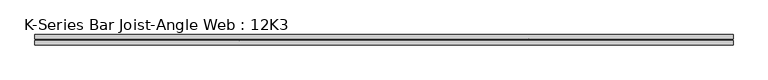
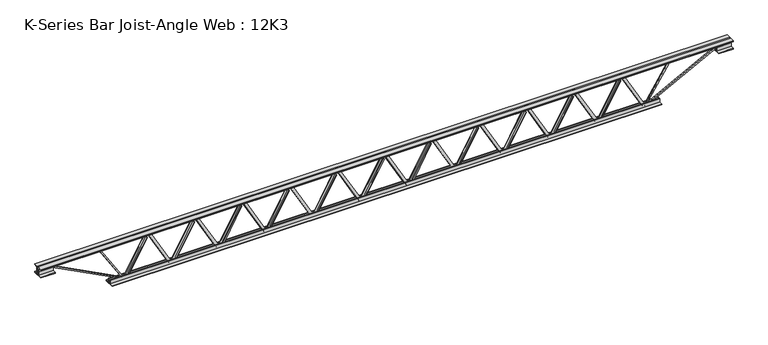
"""IFC4 building model written with IfcOpenShell, lengths in millimetres: beam geometry, K-Series Bar Joist-Angle Web : 12K3."""

from ifc_helpers import new_model, si_unit, frame, origin, place, context, project, spatial, polyline, outline, extrude, faceted_brep, source, transform, mapped, element, save


def k_series_bar_joist_angle_web_12k3_59fd12ad(model_context):
    return source(origin(), model_context, "Body", "SolidModel", [
        extrude(outline(polyline([(-4.7625, 4.7625), (-4.7625, 0.0), (-17.4625, 0.0), (-17.4625, 4.7625), (-4.7625, 4.7625)])), frame((1485.6464612, 0.0, -114.3), z_axis=(-0.48717417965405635, 0.0, 0.8733048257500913), x_axis=(0.0, -1.0, 0.0)), (0.0, 0.0, 1.0), 261.7642698),
        extrude(outline(polyline([(-149.225, 1517.0727273), (-130.175, 1517.0727273), (-130.175, 1516.3160388), (149.225, 1360.4524024), (149.225, 1342.1590909), (130.175, 1342.1590909), (130.175, 1349.2657794), (-149.225, 1505.1294158), (-149.225, 1517.0727273)])), frame((0.0, 0.0, 0.0), z_axis=(0.0, 1.0, 0.0), x_axis=(0.0, 0.0, 1.0)), (0.0, 0.0, 1.0), 4.7625),
        faceted_brep([(1179.9454545, 0.0, -130.175), (1179.9454545, 0.0, -149.225), (1179.9454545, -4.7625, -149.225), (1179.9454545, -4.7625, -130.175), (1180.702143, 0.0, -130.175), (1336.5657794, 0.0, 149.225), (1354.8590909, 0.0, 149.225), (1354.8590909, 0.0, 130.175), (1347.7524024, 0.0, 130.175), (1191.8887661, 0.0, -149.225), (1191.8887661, -4.7625, -149.225), (1211.3717206, -4.7625, -114.3), (1207.2126064, -4.7625, -111.979833), (1334.7373998, -4.7625, 116.620167), (1338.896514, -4.7625, 114.3), (1347.7524024, -4.7625, 130.175), (1354.8590909, -4.7625, 130.175), (1354.8590909, -4.7625, 149.225), (1336.5657794, -4.7625, 149.225), (1180.702143, -4.7625, -130.175), (1338.896514, -17.4625, 114.3), (1211.3717206, -17.4625, -114.3), (1207.2126064, -17.4625, -111.979833), (1334.7373998, -17.4625, 116.620167)], [[[0, 1, 2, 3]], [[1, 0, 4, 5, 6, 7, 8, 9]], [[2, 1, 9, 10]], [[3, 2, 10, 11, 12, 13, 14, 15, 16, 17, 18, 19]], [[0, 3, 19, 4]], [[9, 8, 15, 14, 20, 21, 11, 10]], [[5, 4, 19, 18]], [[7, 6, 17, 16]], [[8, 7, 16, 15]], [[6, 5, 18, 17]], [[21, 22, 12, 11]], [[20, 14, 13, 23]], [[22, 21, 20, 23]], [[12, 22, 23, 13]]]),
        extrude(outline(polyline([(-4.7625, 4.7625), (-4.7625, 0.0), (-17.4625, 0.0), (-17.4625, 4.7625), (-4.7625, 4.7625)])), frame((1148.5191885, 0.0, -114.3), z_axis=(-0.48717417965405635, 0.0, 0.8733048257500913), x_axis=(0.0, -1.0, 0.0)), (0.0, 0.0, 1.0), 261.7642698),
        extrude(outline(polyline([(-149.225, 1179.9454545), (-130.175, 1179.9454545), (-130.175, 1179.1887661), (149.225, 1023.3251297), (149.225, 1005.0318182), (130.175, 1005.0318182), (130.175, 1012.1385067), (-149.225, 1168.002143), (-149.225, 1179.9454545)])), frame((0.0, 0.0, 0.0), z_axis=(0.0, 1.0, 0.0), x_axis=(0.0, 0.0, 1.0)), (0.0, 0.0, 1.0), 4.7625),
        faceted_brep([(842.8181818, 0.0, -130.175), (842.8181818, 0.0, -149.225), (842.8181818, -4.7625, -149.225), (842.8181818, -4.7625, -130.175), (843.5748703, 0.0, -130.175), (999.4385067, 0.0, 149.225), (1017.7318182, 0.0, 149.225), (1017.7318182, 0.0, 130.175), (1010.6251297, 0.0, 130.175), (854.7614933, 0.0, -149.225), (854.7614933, -4.7625, -149.225), (874.2444479, -4.7625, -114.3), (870.0853336, -4.7625, -111.979833), (997.610127, -4.7625, 116.620167), (1001.7692413, -4.7625, 114.3), (1010.6251297, -4.7625, 130.175), (1017.7318182, -4.7625, 130.175), (1017.7318182, -4.7625, 149.225), (999.4385067, -4.7625, 149.225), (843.5748703, -4.7625, -130.175), (1001.7692413, -17.4625, 114.3), (874.2444479, -17.4625, -114.3), (870.0853336, -17.4625, -111.979833), (997.610127, -17.4625, 116.620167)], [[[0, 1, 2, 3]], [[1, 0, 4, 5, 6, 7, 8, 9]], [[2, 1, 9, 10]], [[3, 2, 10, 11, 12, 13, 14, 15, 16, 17, 18, 19]], [[0, 3, 19, 4]], [[9, 8, 15, 14, 20, 21, 11, 10]], [[5, 4, 19, 18]], [[7, 6, 17, 16]], [[8, 7, 16, 15]], [[6, 5, 18, 17]], [[21, 22, 12, 11]], [[20, 14, 13, 23]], [[22, 21, 20, 23]], [[12, 22, 23, 13]]]),
        extrude(outline(polyline([(-4.7625, 4.7625), (-4.7625, 0.0), (-17.4625, 0.0), (-17.4625, 4.7625), (-4.7625, 4.7625)])), frame((811.3919158, 0.0, -114.3), z_axis=(-0.48717417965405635, 0.0, 0.8733048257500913), x_axis=(0.0, -1.0, 0.0)), (0.0, 0.0, 1.0), 261.7642698),
        extrude(outline(polyline([(-149.225, 842.8181818), (-130.175, 842.8181818), (-130.175, 842.0614933), (149.225, 686.197857), (149.225, 667.9045455), (130.175, 667.9045455), (130.175, 675.0112339), (-149.225, 830.8748703), (-149.225, 842.8181818)])), frame((0.0, 0.0, 0.0), z_axis=(0.0, 1.0, 0.0), x_axis=(0.0, 0.0, 1.0)), (0.0, 0.0, 1.0), 4.7625),
        faceted_brep([(505.6909091, 0.0, -130.175), (505.6909091, 0.0, -149.225), (505.6909091, -4.7625, -149.225), (505.6909091, -4.7625, -130.175), (506.4475976, 0.0, -130.175), (662.3112339, 0.0, 149.225), (680.6045455, 0.0, 149.225), (680.6045455, 0.0, 130.175), (673.497857, 0.0, 130.175), (517.6342206, 0.0, -149.225), (517.6342206, -4.7625, -149.225), (537.1171752, -4.7625, -114.3), (532.9580609, -4.7625, -111.979833), (660.4828543, -4.7625, 116.620167), (664.6419685, -4.7625, 114.3), (673.497857, -4.7625, 130.175), (680.6045455, -4.7625, 130.175), (680.6045455, -4.7625, 149.225), (662.3112339, -4.7625, 149.225), (506.4475976, -4.7625, -130.175), (664.6419685, -17.4625, 114.3), (537.1171752, -17.4625, -114.3), (532.9580609, -17.4625, -111.979833), (660.4828543, -17.4625, 116.620167)], [[[0, 1, 2, 3]], [[1, 0, 4, 5, 6, 7, 8, 9]], [[2, 1, 9, 10]], [[3, 2, 10, 11, 12, 13, 14, 15, 16, 17, 18, 19]], [[0, 3, 19, 4]], [[9, 8, 15, 14, 20, 21, 11, 10]], [[5, 4, 19, 18]], [[7, 6, 17, 16]], [[8, 7, 16, 15]], [[6, 5, 18, 17]], [[21, 22, 12, 11]], [[20, 14, 13, 23]], [[22, 21, 20, 23]], [[12, 22, 23, 13]]]),
        extrude(outline(polyline([(-4.7625, 4.7625), (-4.7625, 0.0), (-17.4625, 0.0), (-17.4625, 4.7625), (-4.7625, 4.7625)])), frame((474.264643, 0.0, -114.3), z_axis=(-0.48717417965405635, 0.0, 0.8733048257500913), x_axis=(0.0, -1.0, 0.0)), (0.0, 0.0, 1.0), 261.7642698),
        extrude(outline(polyline([(-149.225, 505.6909091), (-130.175, 505.6909091), (-130.175, 504.9342206), (149.225, 349.0705842), (149.225, 330.7772727), (130.175, 330.7772727), (130.175, 337.8839612), (-149.225, 493.7475976), (-149.225, 505.6909091)])), frame((0.0, 0.0, 0.0), z_axis=(0.0, 1.0, 0.0), x_axis=(0.0, 0.0, 1.0)), (0.0, 0.0, 1.0), 4.7625),
        faceted_brep([(168.5636364, 0.0, -130.175), (168.5636364, 0.0, -149.225), (168.5636364, -4.7625, -149.225), (168.5636364, -4.7625, -130.175), (169.3203248, 0.0, -130.175), (325.1839612, 0.0, 149.225), (343.4772727, 0.0, 149.225), (343.4772727, 0.0, 130.175), (336.3705842, 0.0, 130.175), (180.5069479, 0.0, -149.225), (180.5069479, -4.7625, -149.225), (199.9899024, -4.7625, -114.3), (195.8307882, -4.7625, -111.979833), (323.3555816, -4.7625, 116.620167), (327.5146958, -4.7625, 114.3), (336.3705842, -4.7625, 130.175), (343.4772727, -4.7625, 130.175), (343.4772727, -4.7625, 149.225), (325.1839612, -4.7625, 149.225), (169.3203248, -4.7625, -130.175), (327.5146958, -17.4625, 114.3), (199.9899024, -17.4625, -114.3), (195.8307882, -17.4625, -111.979833), (323.3555816, -17.4625, 116.620167)], [[[0, 1, 2, 3]], [[1, 0, 4, 5, 6, 7, 8, 9]], [[2, 1, 9, 10]], [[3, 2, 10, 11, 12, 13, 14, 15, 16, 17, 18, 19]], [[0, 3, 19, 4]], [[9, 8, 15, 14, 20, 21, 11, 10]], [[5, 4, 19, 18]], [[7, 6, 17, 16]], [[8, 7, 16, 15]], [[6, 5, 18, 17]], [[21, 22, 12, 11]], [[20, 14, 13, 23]], [[22, 21, 20, 23]], [[12, 22, 23, 13]]]),
        extrude(outline(polyline([(-4.7625, 4.7625), (-4.7625, 0.0), (-17.4625, 0.0), (-17.4625, 4.7625), (-4.7625, 4.7625)])), frame((137.1373703, 0.0, -114.3), z_axis=(-0.48717417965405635, 0.0, 0.8733048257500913), x_axis=(0.0, -1.0, 0.0)), (0.0, 0.0, 1.0), 261.7642698),
        extrude(outline(polyline([(-149.225, 168.5636364), (-130.175, 168.5636364), (-130.175, 167.8069479), (149.225, 11.9433115), (149.225, -6.35), (130.175, -6.35), (130.175, 0.7566885), (-149.225, 156.6203248), (-149.225, 168.5636364)])), frame((0.0, 0.0, 0.0), z_axis=(0.0, 1.0, 0.0), x_axis=(0.0, 0.0, 1.0)), (0.0, 0.0, 1.0), 4.7625),
        faceted_brep([(-168.5636364, 0.0, -130.175), (-168.5636364, 0.0, -149.225), (-168.5636364, -4.7625, -149.225), (-168.5636364, -4.7625, -130.175), (-167.8069479, 0.0, -130.175), (-11.9433115, 0.0, 149.225), (6.35, 0.0, 149.225), (6.35, 0.0, 130.175), (-0.7566885, 0.0, 130.175), (-156.6203248, 0.0, -149.225), (-156.6203248, -4.7625, -149.225), (-137.1373703, -4.7625, -114.3), (-141.2964845, -4.7625, -111.979833), (-13.7716911, -4.7625, 116.620167), (-9.6125769, -4.7625, 114.3), (-0.7566885, -4.7625, 130.175), (6.35, -4.7625, 130.175), (6.35, -4.7625, 149.225), (-11.9433115, -4.7625, 149.225), (-167.8069479, -4.7625, -130.175), (-9.6125769, -17.4625, 114.3), (-137.1373703, -17.4625, -114.3), (-141.2964845, -17.4625, -111.979833), (-13.7716911, -17.4625, 116.620167)], [[[0, 1, 2, 3]], [[1, 0, 4, 5, 6, 7, 8, 9]], [[2, 1, 9, 10]], [[3, 2, 10, 11, 12, 13, 14, 15, 16, 17, 18, 19]], [[0, 3, 19, 4]], [[9, 8, 15, 14, 20, 21, 11, 10]], [[5, 4, 19, 18]], [[7, 6, 17, 16]], [[8, 7, 16, 15]], [[6, 5, 18, 17]], [[21, 22, 12, 11]], [[20, 14, 13, 23]], [[22, 21, 20, 23]], [[12, 22, 23, 13]]]),
        extrude(outline(polyline([(-4.7625, 4.7625), (-4.7625, 0.0), (-17.4625, 0.0), (-17.4625, 4.7625), (-4.7625, 4.7625)])), frame((-199.9899024, 0.0, -114.3), z_axis=(-0.48717417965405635, 0.0, 0.8733048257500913), x_axis=(0.0, -1.0, 0.0)), (0.0, 0.0, 1.0), 261.7642698),
        extrude(outline(polyline([(-149.225, -168.5636364), (-130.175, -168.5636364), (-130.175, -169.3203248), (149.225, -325.1839612), (149.225, -343.4772727), (130.175, -343.4772727), (130.175, -336.3705842), (-149.225, -180.5069479), (-149.225, -168.5636364)])), frame((0.0, 0.0, 0.0), z_axis=(0.0, 1.0, 0.0), x_axis=(0.0, 0.0, 1.0)), (0.0, 0.0, 1.0), 4.7625),
        faceted_brep([(-505.6909091, 0.0, -130.175), (-505.6909091, 0.0, -149.225), (-505.6909091, -4.7625, -149.225), (-505.6909091, -4.7625, -130.175), (-504.9342206, 0.0, -130.175), (-349.0705842, 0.0, 149.225), (-330.7772727, 0.0, 149.225), (-330.7772727, 0.0, 130.175), (-337.8839612, 0.0, 130.175), (-493.7475976, 0.0, -149.225), (-493.7475976, -4.7625, -149.225), (-474.264643, -4.7625, -114.3), (-478.4237573, -4.7625, -111.979833), (-350.8989639, -4.7625, 116.620167), (-346.7398496, -4.7625, 114.3), (-337.8839612, -4.7625, 130.175), (-330.7772727, -4.7625, 130.175), (-330.7772727, -4.7625, 149.225), (-349.0705842, -4.7625, 149.225), (-504.9342206, -4.7625, -130.175), (-346.7398496, -17.4625, 114.3), (-474.264643, -17.4625, -114.3), (-478.4237573, -17.4625, -111.979833), (-350.8989639, -17.4625, 116.620167)], [[[0, 1, 2, 3]], [[1, 0, 4, 5, 6, 7, 8, 9]], [[2, 1, 9, 10]], [[3, 2, 10, 11, 12, 13, 14, 15, 16, 17, 18, 19]], [[0, 3, 19, 4]], [[9, 8, 15, 14, 20, 21, 11, 10]], [[5, 4, 19, 18]], [[7, 6, 17, 16]], [[8, 7, 16, 15]], [[6, 5, 18, 17]], [[21, 22, 12, 11]], [[20, 14, 13, 23]], [[22, 21, 20, 23]], [[12, 22, 23, 13]]]),
        extrude(outline(polyline([(-4.7625, 4.7625), (-4.7625, 0.0), (-17.4625, 0.0), (-17.4625, 4.7625), (-4.7625, 4.7625)])), frame((-537.1171752, 0.0, -114.3), z_axis=(-0.48717417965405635, 0.0, 0.8733048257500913), x_axis=(0.0, -1.0, 0.0)), (0.0, 0.0, 1.0), 261.7642698),
        extrude(outline(polyline([(-149.225, -505.6909091), (-130.175, -505.6909091), (-130.175, -506.4475976), (149.225, -662.3112339), (149.225, -680.6045455), (130.175, -680.6045455), (130.175, -673.497857), (-149.225, -517.6342206), (-149.225, -505.6909091)])), frame((0.0, 0.0, 0.0), z_axis=(0.0, 1.0, 0.0), x_axis=(0.0, 0.0, 1.0)), (0.0, 0.0, 1.0), 4.7625),
        faceted_brep([(-842.8181818, 0.0, -130.175), (-842.8181818, 0.0, -149.225), (-842.8181818, -4.7625, -149.225), (-842.8181818, -4.7625, -130.175), (-842.0614933, 0.0, -130.175), (-686.197857, 0.0, 149.225), (-667.9045455, 0.0, 149.225), (-667.9045455, 0.0, 130.175), (-675.0112339, 0.0, 130.175), (-830.8748703, 0.0, -149.225), (-830.8748703, -4.7625, -149.225), (-811.3919158, -4.7625, -114.3), (-815.55103, -4.7625, -111.979833), (-688.0262366, -4.7625, 116.620167), (-683.8671224, -4.7625, 114.3), (-675.0112339, -4.7625, 130.175), (-667.9045455, -4.7625, 130.175), (-667.9045455, -4.7625, 149.225), (-686.197857, -4.7625, 149.225), (-842.0614933, -4.7625, -130.175), (-683.8671224, -17.4625, 114.3), (-811.3919158, -17.4625, -114.3), (-815.55103, -17.4625, -111.979833), (-688.0262366, -17.4625, 116.620167)], [[[0, 1, 2, 3]], [[1, 0, 4, 5, 6, 7, 8, 9]], [[2, 1, 9, 10]], [[3, 2, 10, 11, 12, 13, 14, 15, 16, 17, 18, 19]], [[0, 3, 19, 4]], [[9, 8, 15, 14, 20, 21, 11, 10]], [[5, 4, 19, 18]], [[7, 6, 17, 16]], [[8, 7, 16, 15]], [[6, 5, 18, 17]], [[21, 22, 12, 11]], [[20, 14, 13, 23]], [[22, 21, 20, 23]], [[12, 22, 23, 13]]]),
        extrude(outline(polyline([(-4.7625, 4.7625), (-4.7625, 0.0), (-17.4625, 0.0), (-17.4625, 4.7625), (-4.7625, 4.7625)])), frame((-874.2444479, 0.0, -114.3), z_axis=(-0.48717417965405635, 0.0, 0.8733048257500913), x_axis=(0.0, -1.0, 0.0)), (0.0, 0.0, 1.0), 261.7642698),
        extrude(outline(polyline([(-149.225, -842.8181818), (-130.175, -842.8181818), (-130.175, -843.5748703), (149.225, -999.4385067), (149.225, -1017.7318182), (130.175, -1017.7318182), (130.175, -1010.6251297), (-149.225, -854.7614933), (-149.225, -842.8181818)])), frame((0.0, 0.0, 0.0), z_axis=(0.0, 1.0, 0.0), x_axis=(0.0, 0.0, 1.0)), (0.0, 0.0, 1.0), 4.7625),
        faceted_brep([(-1179.9454545, 0.0, -130.175), (-1179.9454545, 0.0, -149.225), (-1179.9454545, -4.7625, -149.225), (-1179.9454545, -4.7625, -130.175), (-1179.1887661, 0.0, -130.175), (-1023.3251297, 0.0, 149.225), (-1005.0318182, 0.0, 149.225), (-1005.0318182, 0.0, 130.175), (-1012.1385067, 0.0, 130.175), (-1168.002143, 0.0, -149.225), (-1168.002143, -4.7625, -149.225), (-1148.5191885, -4.7625, -114.3), (-1152.6783027, -4.7625, -111.979833), (-1025.1535093, -4.7625, 116.620167), (-1020.9943951, -4.7625, 114.3), (-1012.1385067, -4.7625, 130.175), (-1005.0318182, -4.7625, 130.175), (-1005.0318182, -4.7625, 149.225), (-1023.3251297, -4.7625, 149.225), (-1179.1887661, -4.7625, -130.175), (-1020.9943951, -17.4625, 114.3), (-1148.5191885, -17.4625, -114.3), (-1152.6783027, -17.4625, -111.979833), (-1025.1535093, -17.4625, 116.620167)], [[[0, 1, 2, 3]], [[1, 0, 4, 5, 6, 7, 8, 9]], [[2, 1, 9, 10]], [[3, 2, 10, 11, 12, 13, 14, 15, 16, 17, 18, 19]], [[0, 3, 19, 4]], [[9, 8, 15, 14, 20, 21, 11, 10]], [[5, 4, 19, 18]], [[7, 6, 17, 16]], [[8, 7, 16, 15]], [[6, 5, 18, 17]], [[21, 22, 12, 11]], [[20, 14, 13, 23]], [[22, 21, 20, 23]], [[12, 22, 23, 13]]]),
        extrude(outline(polyline([(-4.7625, 4.7625), (-4.7625, 0.0), (-17.4625, 0.0), (-17.4625, 4.7625), (-4.7625, 4.7625)])), frame((-1211.3717206, 0.0, -114.3), z_axis=(-0.48717417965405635, 0.0, 0.8733048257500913), x_axis=(0.0, -1.0, 0.0)), (0.0, 0.0, 1.0), 261.7642698),
        extrude(outline(polyline([(-149.225, -1179.9454545), (-130.175, -1179.9454545), (-130.175, -1180.702143), (149.225, -1336.5657794), (149.225, -1354.8590909), (130.175, -1354.8590909), (130.175, -1347.7524024), (-149.225, -1191.8887661), (-149.225, -1179.9454545)])), frame((0.0, 0.0, 0.0), z_axis=(0.0, 1.0, 0.0), x_axis=(0.0, 0.0, 1.0)), (0.0, 0.0, 1.0), 4.7625),
        faceted_brep([(-1517.0727273, 0.0, -130.175), (-1517.0727273, 0.0, -149.225), (-1517.0727273, -4.7625, -149.225), (-1517.0727273, -4.7625, -130.175), (-1516.3160388, 0.0, -130.175), (-1360.4524024, 0.0, 149.225), (-1342.1590909, 0.0, 149.225), (-1342.1590909, 0.0, 130.175), (-1349.2657794, 0.0, 130.175), (-1505.1294158, 0.0, -149.225), (-1505.1294158, -4.7625, -149.225), (-1485.6464612, -4.7625, -114.3), (-1489.8055754, -4.7625, -111.979833), (-1362.2807821, -4.7625, 116.620167), (-1358.1216678, -4.7625, 114.3), (-1349.2657794, -4.7625, 130.175), (-1342.1590909, -4.7625, 130.175), (-1342.1590909, -4.7625, 149.225), (-1360.4524024, -4.7625, 149.225), (-1516.3160388, -4.7625, -130.175), (-1358.1216678, -17.4625, 114.3), (-1485.6464612, -17.4625, -114.3), (-1489.8055754, -17.4625, -111.979833), (-1362.2807821, -17.4625, 116.620167)], [[[0, 1, 2, 3]], [[1, 0, 4, 5, 6, 7, 8, 9]], [[2, 1, 9, 10]], [[3, 2, 10, 11, 12, 13, 14, 15, 16, 17, 18, 19]], [[0, 3, 19, 4]], [[9, 8, 15, 14, 20, 21, 11, 10]], [[5, 4, 19, 18]], [[7, 6, 17, 16]], [[8, 7, 16, 15]], [[6, 5, 18, 17]], [[21, 22, 12, 11]], [[20, 14, 13, 23]], [[22, 21, 20, 23]], [[12, 22, 23, 13]]]),
        extrude(outline(polyline([(-4.7625, 4.7625), (-4.7625, 0.0), (-17.4625, 0.0), (-17.4625, 4.7625), (-4.7625, 4.7625)])), frame((1822.7737339, 0.0, -114.3), z_axis=(-0.48717417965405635, 0.0, 0.8733048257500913), x_axis=(0.0, -1.0, 0.0)), (0.0, 0.0, 1.0), 261.7642698),
        extrude(outline(polyline([(-149.225, 1854.2), (-130.175, 1854.2), (-130.175, 1853.4433115), (149.225, 1697.5796752), (149.225, 1679.2863636), (130.175, 1679.2863636), (130.175, 1686.3930521), (-149.225, 1842.2566885), (-149.225, 1854.2)])), frame((0.0, 0.0, 0.0), z_axis=(0.0, 1.0, 0.0), x_axis=(0.0, 0.0, 1.0)), (0.0, 0.0, 1.0), 4.7625),
        faceted_brep([(1517.0727273, 0.0, -130.175), (1517.0727273, 0.0, -149.225), (1517.0727273, -4.7625, -149.225), (1517.0727273, -4.7625, -130.175), (1517.8294158, 0.0, -130.175), (1673.6930521, 0.0, 149.225), (1691.9863636, 0.0, 149.225), (1691.9863636, 0.0, 130.175), (1684.8796752, 0.0, 130.175), (1529.0160388, 0.0, -149.225), (1529.0160388, -4.7625, -149.225), (1548.4989933, -4.7625, -114.3), (1544.3398791, -4.7625, -111.979833), (1671.8646725, -4.7625, 116.620167), (1676.0237867, -4.7625, 114.3), (1684.8796752, -4.7625, 130.175), (1691.9863636, -4.7625, 130.175), (1691.9863636, -4.7625, 149.225), (1673.6930521, -4.7625, 149.225), (1517.8294158, -4.7625, -130.175), (1676.0237867, -17.4625, 114.3), (1548.4989933, -17.4625, -114.3), (1544.3398791, -17.4625, -111.979833), (1671.8646725, -17.4625, 116.620167)], [[[0, 1, 2, 3]], [[1, 0, 4, 5, 6, 7, 8, 9]], [[2, 1, 9, 10]], [[3, 2, 10, 11, 12, 13, 14, 15, 16, 17, 18, 19]], [[0, 3, 19, 4]], [[9, 8, 15, 14, 20, 21, 11, 10]], [[5, 4, 19, 18]], [[7, 6, 17, 16]], [[8, 7, 16, 15]], [[6, 5, 18, 17]], [[21, 22, 12, 11]], [[20, 14, 13, 23]], [[22, 21, 20, 23]], [[12, 22, 23, 13]]]),
        extrude(outline(polyline([(-4.7625, 4.7625), (-4.7625, 0.0), (-17.4625, 0.0), (-17.4625, 4.7625), (-4.7625, 4.7625)])), frame((-1548.4989933, 0.0, -114.3), z_axis=(-0.48717417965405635, 0.0, 0.8733048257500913), x_axis=(0.0, -1.0, 0.0)), (0.0, 0.0, 1.0), 261.7642698),
        extrude(outline(polyline([(-149.225, -1517.0727273), (-130.175, -1517.0727273), (-130.175, -1517.8294158), (149.225, -1673.6930521), (149.225, -1691.9863636), (130.175, -1691.9863636), (130.175, -1684.8796752), (-149.225, -1529.0160388), (-149.225, -1517.0727273)])), frame((0.0, 0.0, 0.0), z_axis=(0.0, 1.0, 0.0), x_axis=(0.0, 0.0, 1.0)), (0.0, 0.0, 1.0), 4.7625),
        faceted_brep([(-1854.2, 0.0, -130.175), (-1854.2, 0.0, -149.225), (-1854.2, -4.7625, -149.225), (-1854.2, -4.7625, -130.175), (-1853.4433115, 0.0, -130.175), (-1697.5796752, 0.0, 149.225), (-1679.2863636, 0.0, 149.225), (-1679.2863636, 0.0, 130.175), (-1686.3930521, 0.0, 130.175), (-1842.2566885, 0.0, -149.225), (-1842.2566885, -4.7625, -149.225), (-1822.7737339, -4.7625, -114.3), (-1826.9328482, -4.7625, -111.979833), (-1699.4080548, -4.7625, 116.620167), (-1695.2489406, -4.7625, 114.3), (-1686.3930521, -4.7625, 130.175), (-1679.2863636, -4.7625, 130.175), (-1679.2863636, -4.7625, 149.225), (-1697.5796752, -4.7625, 149.225), (-1853.4433115, -4.7625, -130.175), (-1695.2489406, -17.4625, 114.3), (-1822.7737339, -17.4625, -114.3), (-1826.9328482, -17.4625, -111.979833), (-1699.4080548, -17.4625, 116.620167)], [[[0, 1, 2, 3]], [[1, 0, 4, 5, 6, 7, 8, 9]], [[2, 1, 9, 10]], [[3, 2, 10, 11, 12, 13, 14, 15, 16, 17, 18, 19]], [[0, 3, 19, 4]], [[9, 8, 15, 14, 20, 21, 11, 10]], [[5, 4, 19, 18]], [[7, 6, 17, 16]], [[8, 7, 16, 15]], [[6, 5, 18, 17]], [[21, 22, 12, 11]], [[20, 14, 13, 23]], [[22, 21, 20, 23]], [[12, 22, 23, 13]]]),
        extrude(outline(polyline([(4.7625, 152.4), (36.5125, 152.4), (36.5125, 146.05), (11.1125, 146.05), (11.1125, 120.65), (4.7625, 120.65), (4.7625, 152.4)])), frame((-2463.8, 0.0, 0.0), z_axis=(1.0, 0.0, 0.0), x_axis=(0.0, 1.0, 0.0)), (0.0, 0.0, 1.0), 4927.6),
        extrude(outline(polyline([(-4.7625, 152.4), (-4.7625, 120.65), (-11.1125, 120.65), (-11.1125, 146.05), (-36.5125, 146.05), (-36.5125, 152.4), (-4.7625, 152.4)])), frame((-2463.8, 0.0, 0.0), z_axis=(1.0, 0.0, 0.0), x_axis=(0.0, 1.0, 0.0)), (0.0, 0.0, 1.0), 4927.6),
        extrude(outline(polyline([(-4.7625, 88.9), (-36.5125, 88.9), (-36.5125, 95.25), (-11.1125, 95.25), (-11.1125, 120.65), (-4.7625, 120.65), (-4.7625, 88.9)])), frame((-2463.8, 0.0, 0.0), z_axis=(1.0, 0.0, 0.0), x_axis=(0.0, 1.0, 0.0)), (0.0, 0.0, 1.0), 101.6),
        extrude(outline(polyline([(36.5125, 88.9), (4.7625, 88.9), (4.7625, 120.65), (11.1125, 120.65), (11.1125, 95.25), (36.5125, 95.25), (36.5125, 88.9)])), frame((-2463.8, 0.0, 0.0), z_axis=(1.0, 0.0, 0.0), x_axis=(0.0, 1.0, 0.0)), (0.0, 0.0, 1.0), 101.6),
        extrude(outline(polyline([(4.7625, 88.9), (4.7625, 120.65), (11.1125, 120.65), (11.1125, 95.25), (36.5125, 95.25), (36.5125, 88.9), (4.7625, 88.9)])), frame((2362.2, 0.0, 0.0), z_axis=(1.0, 0.0, 0.0), x_axis=(0.0, 1.0, 0.0)), (0.0, 0.0, 1.0), 101.6),
        extrude(outline(polyline([(-4.7625, 88.9), (-36.5125, 88.9), (-36.5125, 95.25), (-11.1125, 95.25), (-11.1125, 120.65), (-4.7625, 120.65), (-4.7625, 88.9)])), frame((2362.2, 0.0, 0.0), z_axis=(1.0, 0.0, 0.0), x_axis=(0.0, 1.0, 0.0)), (0.0, 0.0, 1.0), 101.6),
        extrude(outline(polyline([(4.7625, -152.4), (4.7625, -120.65), (11.1125, -120.65), (11.1125, -146.05), (36.5125, -146.05), (36.5125, -152.4), (4.7625, -152.4)])), frame((-1955.8, 0.0, 0.0), z_axis=(1.0, 0.0, 0.0), x_axis=(0.0, 1.0, 0.0)), (0.0, 0.0, 1.0), 3911.6),
        extrude(outline(polyline([(-4.7625, -152.4), (-36.5125, -152.4), (-36.5125, -146.05), (-11.1125, -146.05), (-11.1125, -120.65), (-4.7625, -120.65), (-4.7625, -152.4)])), frame((-1955.8, 0.0, 0.0), z_axis=(1.0, 0.0, 0.0), x_axis=(0.0, 1.0, 0.0)), (0.0, 0.0, 1.0), 3911.6),
        extrude(outline(polyline([(4.7625, 4.7625), (4.7625, -4.7625), (-4.7625, -4.7625), (-4.7625, 4.7625), (4.7625, 4.7625)])), frame((1854.2, 0.0, -146.05), z_axis=(0.5342683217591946, 0.0, 0.8453149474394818), x_axis=(0.0, -1.0, 0.0)), (0.0, 0.0, 1.0), 315.5037076),
        extrude(outline(polyline([(4.7625, 4.7625), (4.7625, -4.7625), (-4.7625, -4.7625), (-4.7625, 4.7625), (4.7625, 4.7625)])), frame((-1854.2, 0.0, -146.05), z_axis=(-0.5342683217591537, 0.0, 0.8453149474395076), x_axis=(0.0, -1.0, 0.0)), (0.0, 0.0, 1.0), 315.5037076),
        extrude(outline(polyline([(0.0, -9.525), (0.0, 0.0), (573.7533355, 0.0), (573.7533355, -9.525), (0.0, -9.525)])), frame((2364.4137714, -4.7625, 116.4332925), z_axis=(-0.46483389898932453, 0.0, 0.8853979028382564), x_axis=(-0.8853979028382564, 0.0, -0.46483389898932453)), (0.0, 0.0, 1.0), 9.525),
        extrude(outline(polyline([(0.0, -9.525), (0.0, 0.0), (573.7533355, 0.0), (573.7533355, -9.525), (0.0, -9.525)])), frame((-2364.4137714, 4.7625, 116.4332925), z_axis=(0.46483389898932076, 0.0, 0.8853979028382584), x_axis=(0.8853979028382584, 0.0, -0.46483389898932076)), (0.0, 0.0, 1.0), 9.525),
    ])


if __name__ == "__main__":
    model = new_model("IFC4")
    model_context = context("Model", 3, world=origin())
    ifc_project = project(units=[si_unit("LENGTHUNIT", "METRE", prefix="MILLI")], contexts=[model_context])
    site = spatial("IfcSite", under=ifc_project)
    building = spatial("IfcBuilding", under=site)
    placement = place(None, origin())
    k_series_bar_joist_angle_web_12k3_shape = k_series_bar_joist_angle_web_12k3_59fd12ad(model_context)
    element("IfcBeam", 1, ObjectType="K-Series Bar Joist-Angle Web : 12K3", at=placement, inside=building, context=model_context, shape_type="MappedRepresentation", body=[
        mapped(k_series_bar_joist_angle_web_12k3_shape, transform((0.0, 0.0, 0.0), x_axis=(1.0, 0.0, 0.0), y_axis=(0.0, 1.0, 0.0), z_axis=(0.0, 0.0, 1.0))),
    ])
    save(model, "model.ifc")
